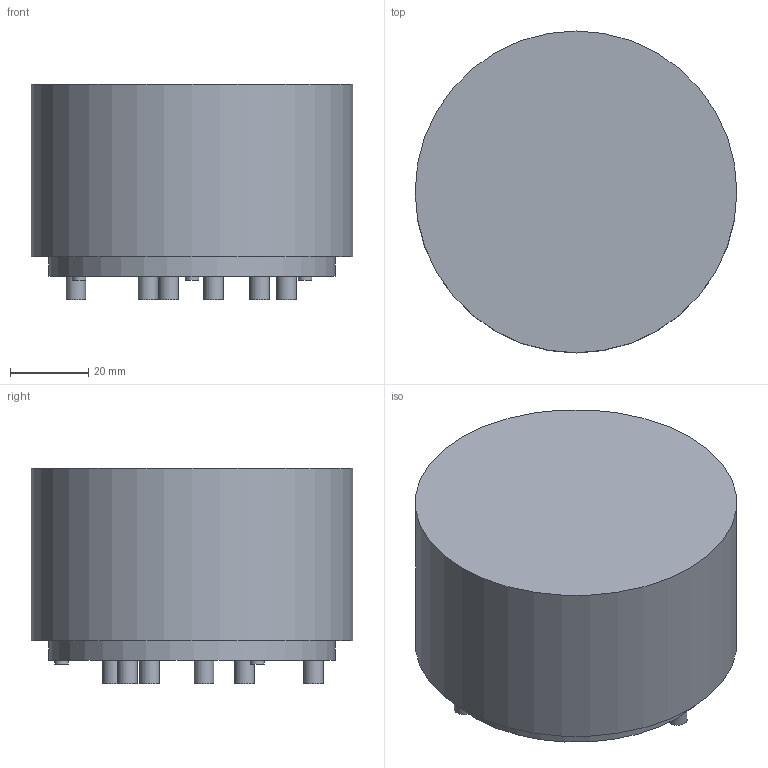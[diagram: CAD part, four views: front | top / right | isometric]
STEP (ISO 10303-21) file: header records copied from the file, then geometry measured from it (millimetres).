
FILE_DESCRIPTION(/* description */ (''),/* implementation_level */ '2;1');
FILE_NAME(/* name */ 'F:\2016年工作\2016年产品图纸\VAC\X2\4EA754C1\X0\3D模型\产品3D模型\6123-X370\6123-X370 3D model.stp',/* time_stamp */ '2016-06-24T13:23:24+08:00',/* author */ ('CN000560'),/* organization */ (''),/* preprocessor_version */ 'ST-DEVELOPER v16.1',/* originating_system */ 'Autodesk Inventor 2016',/* authorisation */ '');
FILE_SCHEMA (('AUTOMOTIVE_DESIGN { 1 0 10303 214 3 1 1 }'));
Length unit declared in the file: millimetre
Products named in the file (1): 6123-X370 3D model
Bounding box: 82 x 82 x 55 mm (x, y, z)
Volume: 254015.2 mm3; surface area: 23649 mm2
Topology: 1 solids, 1 shells, 24 faces, 36 edges, 24 vertices
Faces by surface type: cylinder 12, plane 12
Full cylindrical faces by diameter (mm): 3.5 x3, 5 x6, 82 x1
Entity records: 518 total; most frequent: DIRECTION 100, CARTESIAN_POINT 75, ORIENTED_EDGE 52, AXIS2_PLACEMENT_3D 49, EDGE_LOOP 44, EDGE_CURVE 26, FACE_OUTER_BOUND 24, CIRCLE 24
